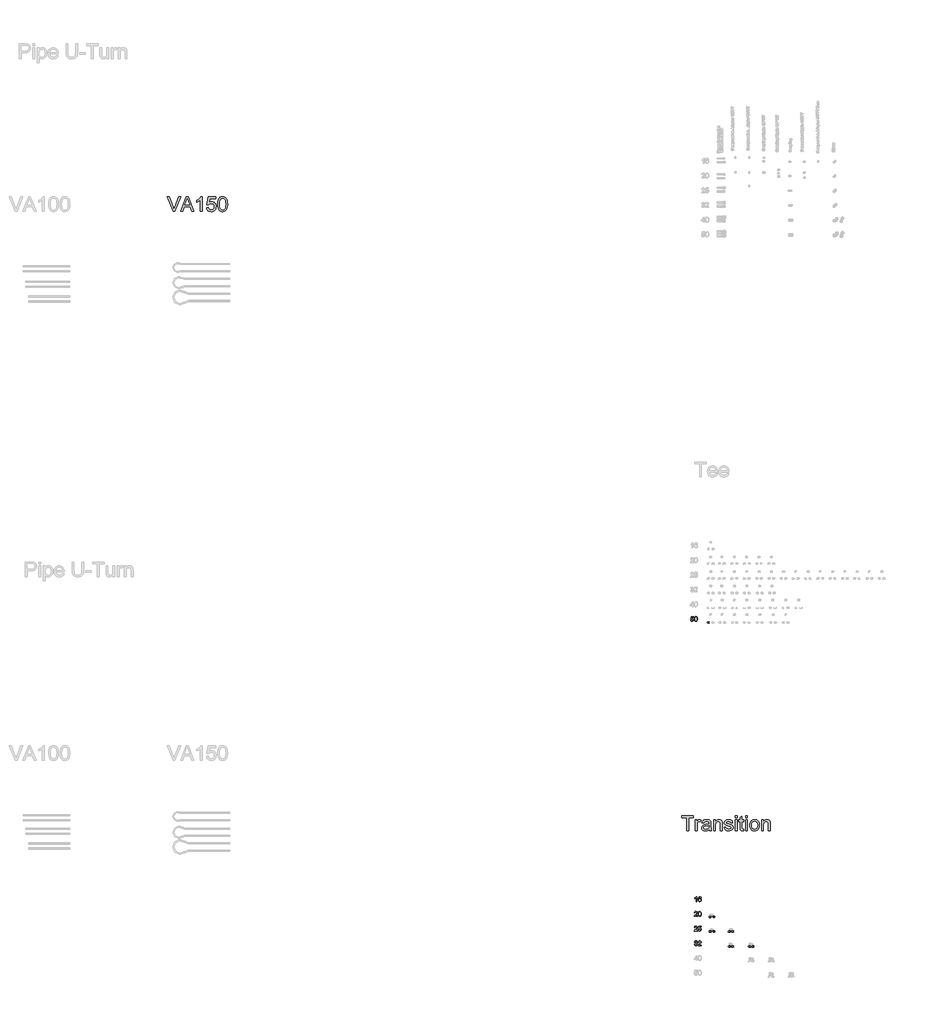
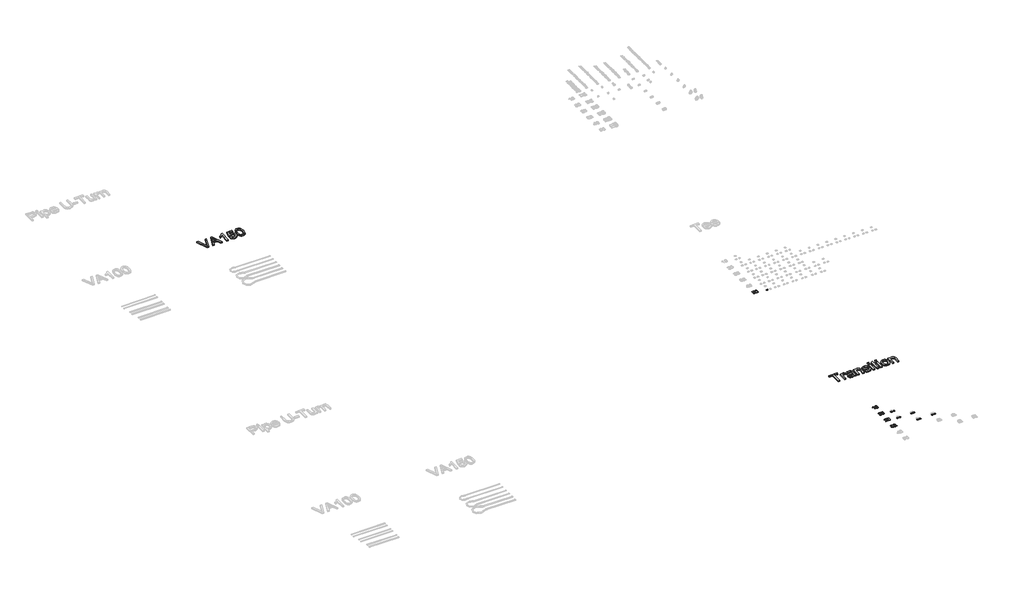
# One storey, part 15 of 26: 18 proxies.
"""IFC4 building model written with IfcOpenShell, lengths in millimetres."""

from ifc_helpers import new_model, si_unit, origin, origin_with_axes, place, context, project, spatial, polyline, outline, extrude, element, save

model = new_model("IFC4")

# Units and contexts
model_context = context("Model", 3, world=origin())
ifc_project = project(units=[si_unit("LENGTHUNIT", "METRE", prefix="MILLI")], contexts=[model_context])

# Site, building, storey
site = spatial("IfcSite", under=ifc_project)
building = spatial("IfcBuilding", under=site)
storey = spatial("IfcBuildingStorey", under=building, Name="Superpipe UFH", Elevation=0.0)

# Proxies
placement = place(None, origin())
element("IfcBuildingElementProxy", 1, Name="100mm Arial", ObjectType="100mm Arial", at=placement, inside=storey, context=model_context, shape_type="SweptSolid", body=[
    extrude(outline(polyline([(25170.9833126, 22852.4161717), (25183.5403514, 22853.9858016), (25189.8679217, 22841.0486181), (25202.9890462, 22836.7198733), (25211.9898924, 22838.2251237), (25218.7343956, 22842.7408752), (25222.9466444, 22849.7459616), (25224.3507274, 22858.7192166), (25219.0900149, 22873.6307001), (25212.4834674, 22877.7325843), (25203.1852499, 22879.0998791), (25192.1610528, 22876.9171126), (25185.1099812, 22871.2517299), (25172.5529425, 22872.8213597), (25183.5403514, 22924.6191446), (25232.1988766, 22924.6191446), (25232.1988766, 22912.0621059), (25193.6938945, 22912.0621059), (25188.3228173, 22884.3973798), (25197.2930066, 22889.8420334), (25206.6923916, 22891.6569179), (25218.4247616, 22889.4067063), (25228.1644374, 22882.6560717), (25234.721934, 22872.3676386), (25236.9077662, 22859.5040315), (25234.9395975, 22846.9469927), (25229.0350915, 22836.2048385), (25217.7288515, 22827.1733355), (25202.9399953, 22824.1628345), (25190.6067514, 22826.0972806), (25180.7812364, 22831.9006191), (25174.0459302, 22840.8983996), (25170.9833126, 22852.4161717)])), origin_with_axes(), (0.0, 0.0, 1.0), 2.0),
    extrude(outline(polyline([(25247.8951751, 22875.151279), (25251.5862578, 22904.0545411), (25262.5491412, 22920.7195955), (25280.8574019, 22926.1887745), (25295.5236307, 22922.9514129), (25305.6526483, 22913.619473), (25311.5387602, 22898.7570404), (25313.8196286, 22875.151279), (25310.1653341, 22846.3706443), (25299.2392389, 22829.6688017), (25291.0078792, 22825.5393263), (25280.8574019, 22824.1628345), (25267.8098538, 22826.5540675), (25257.9015654, 22833.7277664), (25250.3967727, 22850.7177832), (25247.8951751, 22875.151279)]), holes=[polyline([(25260.4522139, 22875.1758045), (25261.9237418, 22855.423607), (25266.3383258, 22843.991674), (25272.9111508, 22838.5378234), (25280.8574019, 22836.7198733), (25288.8036529, 22838.5439548), (25295.3764779, 22844.0161995), (25299.7910619, 22855.4542639), (25301.2625899, 22875.1758045), (25299.8401128, 22894.4834779), (25295.5726817, 22906.0043157), (25289.0121194, 22911.7248807), (25280.7102491, 22913.6317357), (25272.8498371, 22911.9517413), (25266.5345295, 22906.9117579), (25261.9727928, 22894.6735502), (25260.4522139, 22875.1758045)])]), origin_with_axes(), (0.0, 0.0, 1.0), 2.0),
])
element("IfcBuildingElementProxy", 2, Name="100mm Arial", ObjectType="100mm Arial", at=placement, inside=storey, context=model_context, shape_type="SweptSolid", body=[
    extrude(outline(polyline([(25295.6149674, 17106.9604768), (25283.0579286, 17106.9604768), (25283.0579286, 17185.2457654), (25271.1630775, 17176.7722168), (25257.9438511, 17170.4323837), (25257.9438511, 17182.3027095), (25276.3502136, 17194.0504078), (25287.5215635, 17207.416787), (25295.6149674, 17207.416787), (25295.6149674, 17106.9604768)])), origin_with_axes(), (0.0, 0.0, 1.0), 2.0),
    extrude(outline(polyline([(25389.7927582, 17180.7330796), (25377.2357194, 17179.1634498), (25372.4777789, 17189.6358239), (25359.8962147, 17194.8597482), (25348.5654492, 17191.8185904), (25339.9937988, 17180.4019858), (25336.4253434, 17158.0224978), (25347.4985915, 17168.0411508), (25361.2205899, 17171.3153005), (25372.8211355, 17169.0773517), (25382.5577456, 17162.3635053), (25389.1612274, 17152.105729), (25391.362388, 17139.2359906), (25387.2175842, 17121.9087486), (25375.8132423, 17109.6460154), (25359.3566544, 17105.390847), (25345.1104242, 17108.2112756), (25333.7643303, 17116.6725615), (25326.342311, 17131.6085705), (25323.8683046, 17153.8531685), (25326.6151569, 17178.8630128), (25334.8557136, 17195.9633942), (25346.1067712, 17204.5534388), (25360.6810296, 17207.416787), (25371.6990954, 17205.6448221), (25380.5221319, 17200.3289272), (25386.7025494, 17191.8860354), (25389.7927582, 17180.7330796)]), holes=[polyline([(25336.4253434, 17139.4321943), (25339.3316112, 17128.55515), (25347.0571331, 17120.6579498), (25358.3756358, 17117.9478858), (25366.6621777, 17119.3519687), (25373.1767547, 17123.5642176), (25377.3982006, 17130.1860935), (25378.8053492, 17138.8190576), (25377.4165947, 17147.1055996), (25373.2503311, 17153.4239728), (25366.6253895, 17157.4246895), (25357.860601, 17158.7582618), (25342.6670746, 17153.4239728), (25337.9857762, 17147.2588837), (25336.4253434, 17139.4321943)])]), origin_with_axes(), (0.0, 0.0, 1.0), 2.0),
])
element("IfcBuildingElementProxy", 3, Name="100mm Arial", ObjectType="100mm Arial", at=placement, inside=storey, context=model_context, shape_type="SweptSolid", body=[
    extrude(outline(polyline([(25312.8808957, 16819.5175156), (25312.8808957, 16806.9604768), (25246.9564422, 16806.9604768), (25248.3053428, 16815.6179665), (25255.9327629, 16828.9475574), (25271.6535868, 16843.5034217), (25293.334099, 16864.4236445), (25298.7542271, 16878.648415), (25293.6406674, 16890.1631214), (25280.2865509, 16894.8597482), (25266.3683488, 16890.273486), (25261.0831108, 16877.5938199), (25248.526072, 16879.1634498), (25251.5702955, 16891.309687), (25258.1523176, 16900.1817744), (25267.9287816, 16905.6080339), (25280.5563311, 16907.416787), (25293.275851, 16905.4056988), (25303.033921, 16899.372434), (25309.2419296, 16890.3593252), (25311.3112659, 16879.4087044), (25309.0794484, 16867.5015905), (25301.6604949, 16855.1898064), (25283.6710653, 16837.9851918), (25269.2255656, 16825.9063996), (25263.5601829, 16819.5175156), (25312.8808957, 16819.5175156)])), origin_with_axes(), (0.0, 0.0, 1.0), 2.0),
    extrude(outline(polyline([(25325.4379345, 16856.3792915), (25329.1290172, 16885.2825536), (25340.0919006, 16901.947608), (25358.4001612, 16907.416787), (25373.0663901, 16904.1794254), (25383.1954077, 16894.8474855), (25389.0815196, 16879.9850529), (25391.362388, 16856.3792915), (25387.7080935, 16827.5986568), (25376.7819983, 16810.8968142), (25368.5506386, 16806.7673388), (25358.4001612, 16805.390847), (25345.3526131, 16807.78208), (25335.4443247, 16814.9557789), (25327.939532, 16831.9457957), (25325.4379345, 16856.3792915)]), holes=[polyline([(25337.9949732, 16856.403817), (25339.4665012, 16836.6516195), (25343.8810852, 16825.2196865), (25350.4539101, 16819.765836), (25358.4001612, 16817.9478858), (25366.3464123, 16819.7719673), (25372.9192373, 16825.244212), (25377.3338213, 16836.6822764), (25378.8053492, 16856.403817), (25377.3828722, 16875.7114904), (25373.1154411, 16887.2323282), (25366.5548788, 16892.9528932), (25358.2530084, 16894.8597482), (25350.3925965, 16893.1797538), (25344.0772889, 16888.1397704), (25339.5155522, 16875.9015627), (25337.9949732, 16856.403817)])]), origin_with_axes(), (0.0, 0.0, 1.0), 2.0),
])
element("IfcBuildingElementProxy", 4, Name="100mm Arial", ObjectType="100mm Arial", at=placement, inside=storey, context=model_context, shape_type="SweptSolid", body=[
    extrude(outline(polyline([(25312.8808957, 16519.5175156), (25312.8808957, 16506.9604768), (25246.9564422, 16506.9604768), (25248.3053428, 16515.6179665), (25255.9327629, 16528.9475574), (25271.6535868, 16543.5034217), (25293.334099, 16564.4236445), (25298.7542271, 16578.648415), (25293.6406674, 16590.1631214), (25280.2865509, 16594.8597482), (25266.3683488, 16590.273486), (25261.0831108, 16577.5938199), (25248.526072, 16579.1634498), (25251.5702955, 16591.309687), (25258.1523176, 16600.1817744), (25267.9287816, 16605.6080339), (25280.5563311, 16607.416787), (25293.275851, 16605.4056988), (25303.033921, 16599.372434), (25309.2419296, 16590.3593252), (25311.3112659, 16579.4087044), (25309.0794484, 16567.5015905), (25301.6604949, 16555.1898064), (25283.6710653, 16537.9851918), (25269.2255656, 16525.9063996), (25263.5601829, 16519.5175156), (25312.8808957, 16519.5175156)])), origin_with_axes(), (0.0, 0.0, 1.0), 2.0),
    extrude(outline(polyline([(25325.4379345, 16533.6441842), (25337.9949732, 16535.2138141), (25344.3225436, 16522.2766306), (25357.4436681, 16517.9478858), (25366.4445142, 16519.4531363), (25373.1890174, 16523.9688878), (25377.4012663, 16530.9739741), (25378.8053492, 16539.9472291), (25373.5446367, 16554.8587126), (25366.9380892, 16558.9605969), (25357.6398718, 16560.3278916), (25346.6156747, 16558.1451251), (25339.5646031, 16552.4797424), (25327.0075643, 16554.0493722), (25337.9949732, 16605.8471571), (25386.6534985, 16605.8471571), (25386.6534985, 16593.2901184), (25348.1485163, 16593.2901184), (25342.7774392, 16565.6253923), (25351.7476285, 16571.0700459), (25361.1470135, 16572.8849304), (25372.8793834, 16570.6347188), (25382.6190593, 16563.8840842), (25389.1765558, 16553.5956511), (25391.362388, 16540.732044), (25389.3942193, 16528.1750052), (25383.4897133, 16517.432851), (25372.1834733, 16508.401348), (25357.3946171, 16505.390847), (25345.0613732, 16507.3252932), (25335.2358583, 16513.1286316), (25328.5005521, 16522.1264121), (25325.4379345, 16533.6441842)])), origin_with_axes(), (0.0, 0.0, 1.0), 2.0),
])
element("IfcBuildingElementProxy", 5, Name="100mm Arial", ObjectType="100mm Arial", at=placement, inside=storey, context=model_context, shape_type="SweptSolid", body=[
    extrude(outline(polyline([(25248.526072, 16233.6441842), (25261.0831108, 16235.2138141), (25268.011555, 16221.9945877), (25280.973264, 16217.9478858), (25289.5817027, 16219.339706), (25296.2281041, 16223.5151666), (25301.8934868, 16237.2984787), (25296.277155, 16250.2847131), (25282.0033336, 16255.4227983), (25273.1986912, 16254.0493722), (25274.5966427, 16266.606411), (25276.607731, 16266.4592582), (25290.8570269, 16270.0645018), (25295.6027047, 16274.6385012), (25297.1845972, 16281.1500125), (25292.598335, 16290.9724618), (25280.7770603, 16294.8597482), (25268.8086327, 16290.9356736), (25262.6527406, 16279.1634498), (25250.0957019, 16280.7330796), (25253.7929159, 16292.0086628), (25260.3718723, 16300.4270291), (25269.3727184, 16305.6693475), (25280.3356019, 16307.416787), (25295.4800773, 16303.970959), (25306.0750788, 16294.5531799), (25309.741636, 16281.8857765), (25306.2590198, 16270.3097564), (25295.9583239, 16261.9956233), (25309.6435341, 16253.4117101), (25314.4505256, 16237.0777495), (25312.0470299, 16224.8395418), (25304.8365427, 16214.6124223), (25293.9533671, 16207.6962408), (25280.5318056, 16205.390847), (25268.3916998, 16207.3590157), (25258.5079368, 16213.2635217), (25251.6346749, 16222.2950247), (25248.526072, 16233.6441842)])), origin_with_axes(), (0.0, 0.0, 1.0), 2.0),
    extrude(outline(polyline([(25389.7927582, 16219.5175156), (25389.7927582, 16206.9604768), (25323.8683046, 16206.9604768), (25325.2172053, 16215.6179665), (25332.8446253, 16228.9475574), (25348.5654492, 16243.5034217), (25370.2459615, 16264.4236445), (25375.6660896, 16278.648415), (25370.5525298, 16290.1631214), (25357.1984134, 16294.8597482), (25343.2802112, 16290.273486), (25337.9949732, 16277.5938199), (25325.4379345, 16279.1634498), (25328.482158, 16291.309687), (25335.06418, 16300.1817744), (25344.840644, 16305.6080339), (25357.4681935, 16307.416787), (25370.1877135, 16305.4056988), (25379.9457834, 16299.372434), (25386.1537921, 16290.3593252), (25388.2231283, 16279.4087044), (25385.9913109, 16267.5015905), (25378.5723573, 16255.1898064), (25360.5829277, 16237.9851918), (25346.1374281, 16225.9063996), (25340.4720453, 16219.5175156), (25389.7927582, 16219.5175156)])), origin_with_axes(), (0.0, 0.0, 1.0), 2.0),
])
element("IfcBuildingElementProxy", 6, Name="300mm Arial", ObjectType="300mm Arial", at=placement, inside=storey, context=model_context, shape_type="SweptSolid", body=[
    extrude(outline(polyline([(14611.0010231, 31190.4014488), (14491.0714926, 31491.7703793), (14531.3913593, 31491.7703793), (14611.6632106, 31274.6464257), (14627.9235948, 31225.7181204), (14643.9632498, 31274.6464257), (14724.4558304, 31491.7703793), (14764.775697, 31491.7703793), (14649.9229381, 31190.4014488), (14611.0010231, 31190.4014488)])), origin_with_axes(), (0.0, 0.0, 1.0), 30.0),
    extrude(outline(polyline([(14764.7021206, 31190.4014488), (14884.9995331, 31491.7703793), (14917.078843, 31491.7703793), (15037.3762555, 31190.4014488), (14997.5714236, 31190.4014488), (14963.0640924, 31284.5792396), (14838.9407073, 31284.5792396), (14804.5069525, 31190.4014488), (14764.7021206, 31190.4014488)]), holes=[polyline([(14852.7730703, 31322.2503559), (14949.3053058, 31322.2503559), (14922.1556146, 31396.3417897), (14901.0391881, 31454.099263), (14882.2772063, 31402.8165128), (14852.7730703, 31322.2503559)])]), origin_with_axes(), (0.0, 0.0, 1.0), 30.0),
    extrude(outline(polyline([(15204.7625633, 31190.4014488), (15167.091447, 31190.4014488), (15167.091447, 31425.2573145), (15131.4068934, 31399.8366687), (15091.7492144, 31380.8171695), (15091.7492144, 31416.4281467), (15121.3361238, 31432.522984), (15146.9683018, 31451.6712418), (15167.1742204, 31472.0335102), (15180.4823516, 31491.7703793), (15204.7625633, 31491.7703793), (15204.7625633, 31190.4014488)])), origin_with_axes(), (0.0, 0.0, 1.0), 30.0),
    extrude(outline(polyline([(15294.2314645, 31270.452571), (15331.9025808, 31275.1614605), (15338.8187623, 31252.5459149), (15350.8852918, 31236.34991), (15368.0469868, 31226.6102342), (15390.2486652, 31223.3636756), (15417.2512037, 31227.8794271), (15437.4847134, 31241.4266816), (15450.12146, 31262.4419405), (15454.3337088, 31289.3617055), (15450.3881744, 31314.708775), (15438.5515712, 31334.0961561), (15418.7319287, 31346.4018089), (15390.8372764, 31350.5036931), (15372.5627383, 31348.8666182), (15357.7646851, 31343.9553936), (15336.6114703, 31326.9592454), (15298.940354, 31331.668135), (15331.9025808, 31487.0614897), (15477.8781565, 31487.0614897), (15477.8781565, 31449.3903734), (15362.36321, 31449.3903734), (15346.2499786, 31366.3961953), (15373.1605466, 31382.7301559), (15401.3587015, 31388.1748094), (15419.7045167, 31386.4871508), (15436.5558114, 31381.4241748), (15451.9125854, 31372.9858816), (15465.7748388, 31361.172271), (15477.2504578, 31346.7053115), (15485.4473285, 31330.3069716), (15490.365451, 31311.9772512), (15492.0048251, 31291.7161503), (15486.1003191, 31254.045034), (15478.7196866, 31237.2512209), (15468.386801, 31221.8185712), (15452.7334221, 31206.013441), (15434.4680811, 31194.7240623), (15413.5907778, 31187.950435), (15390.1015124, 31185.6925593), (15353.1017808, 31191.4958978), (15337.42311, 31198.7500709), (15323.6252359, 31208.9059132), (15312.1450184, 31221.457587), (15303.4193173, 31235.8992546), (15294.2314645, 31270.452571)])), origin_with_axes(), (0.0, 0.0, 1.0), 30.0),
    extrude(outline(polyline([(15524.9670519, 31338.6578929), (15527.7353639, 31386.8964195), (15536.0402999, 31425.3676791), (15549.7990865, 31454.660283), (15568.9289503, 31475.3628423), (15593.5678469, 31487.668495), (15623.8537322, 31491.7703793), (15647.0670861, 31489.3423581), (15667.8524188, 31482.0582946), (15685.2348431, 31470.2032973), (15698.2394716, 31454.0624748), (15708.0619209, 31433.7737827), (15715.8978074, 31409.475177), (15721.0297612, 31378.6190746), (15722.7404125, 31338.6578929), (15719.9996916, 31290.6952778), (15711.777529, 31252.3159886), (15698.1015159, 31222.9957936), (15678.9992433, 31202.2104609), (15654.3051643, 31189.8220347), (15623.8537322, 31185.6925593), (15603.1051876, 31187.485984), (15584.7110879, 31192.8662582), (15568.6714329, 31201.8333818), (15554.9862227, 31214.3873549), (15541.8528355, 31237.0810755), (15532.4718446, 31265.3574053), (15526.84325, 31299.2163445), (15524.9670519, 31338.6578929)]), holes=[polyline([(15562.6381682, 31338.7314693), (15567.0527521, 31279.4748769), (15572.570982, 31259.2068782), (15580.2965039, 31245.1790779), (15600.0149789, 31228.8175262), (15623.8537322, 31223.3636756), (15647.6924855, 31228.8359203), (15667.4109604, 31245.2526543), (15675.1364823, 31259.3034473), (15680.6547122, 31279.5668474), (15685.0692962, 31338.7314693), (15680.801865, 31396.6544894), (15675.4675761, 31416.8558095), (15667.9995716, 31431.2170029), (15648.3178849, 31448.3786979), (15623.4122738, 31454.099263), (15599.8310379, 31449.0592796), (15580.8851151, 31433.9393296), (15572.9020758, 31418.3043448), (15567.1999049, 31397.2247065), (15562.6381682, 31338.7314693)])]), origin_with_axes(), (0.0, 0.0, 1.0), 30.0),
])
element("IfcBuildingElementProxy", 7, Name="30mm Arial", ObjectType="30mm Arial", at=placement, inside=storey, context=model_context, shape_type="SweptSolid", body=[
    extrude(outline(polyline([(25513.9421282, 22796.5350756), (25517.7092398, 22797.0059646), (25519.6075109, 22793.1248095), (25523.5438483, 22791.8261861), (25528.2674531, 22793.6324867), (25529.9523526, 22798.4259891), (25528.3741389, 22802.8994341), (25523.6027094, 22804.5401878), (25520.2954502, 22803.8853579), (25518.1801288, 22802.1857431), (25514.4130171, 22802.656632), (25517.7092398, 22818.1959675), (25532.3067974, 22818.1959675), (25532.3067974, 22814.4288559), (25520.7553027, 22814.4288559), (25519.1439796, 22806.1294381), (25524.6548519, 22808.3072995), (25531.0964656, 22805.6070456), (25533.7194642, 22798.6614336), (25531.3576618, 22791.6716757), (25523.529133, 22788.0590745), (25516.8815053, 22790.3804098), (25513.9421282, 22796.5350756)])), origin_with_axes(), (0.0, 0.0, 1.0), 2.0),
    extrude(outline(polyline([(25537.0156869, 22803.3556078), (25538.1230117, 22812.0265864), (25541.4118768, 22817.0261028), (25546.904355, 22818.6668565), (25551.3042236, 22817.695648), (25554.3429289, 22814.896066), (25556.1087625, 22810.4373362), (25556.793023, 22803.3556078), (25555.6967346, 22794.7214174), (25552.4189061, 22789.7108646), (25546.904355, 22788.0590745), (25540.017604, 22790.928554), (25537.0156869, 22803.3556078)]), holes=[polyline([(25540.7827986, 22803.3629655), (25542.5486321, 22794.0077263), (25546.904355, 22791.8261861), (25551.2600778, 22794.015084), (25553.0259114, 22803.3629655), (25551.3189389, 22812.6115188), (25546.8602091, 22814.8997448), (25542.6074932, 22812.8837515), (25540.7827986, 22803.3629655)])]), origin_with_axes(), (0.0, 0.0, 1.0), 2.0),
])
element("IfcBuildingElementProxy", 8, Name="30mm Arial", ObjectType="30mm Arial", at=placement, inside=storey, context=model_context, shape_type="SweptSolid", body=[
    extrude(outline(polyline([(25633.7777554, 16782.3220762), (25630.0106438, 16782.3220762), (25630.0106438, 16805.8076628), (25626.4421884, 16803.2655982), (25622.4764205, 16801.3636483), (25622.4764205, 16804.924746), (25627.9983293, 16808.4490555), (25631.3497342, 16812.4589693), (25633.7777554, 16812.4589693), (25633.7777554, 16782.3220762)])), origin_with_axes(), (0.0, 0.0, 1.0), 2.0),
    extrude(outline(polyline([(25662.0310926, 16804.4538571), (25658.263981, 16803.9829681), (25656.8365989, 16807.1246804), (25653.0621296, 16808.6918577), (25649.6629, 16807.7795103), (25647.0914048, 16804.3545289), (25646.0208682, 16797.6406825), (25649.3428426, 16800.6462784), (25653.4594421, 16801.6285233), (25659.8605889, 16798.9429848), (25662.5019816, 16792.0047304), (25661.2585404, 16786.8065578), (25657.8372379, 16783.1277378), (25652.9002615, 16781.8511873), (25645.2225643, 16785.2357016), (25642.2537566, 16796.3898837), (25645.5499792, 16809.0229514), (25653.2975741, 16812.4589693), (25659.2499047, 16810.3326114), (25662.0310926, 16804.4538571)]), holes=[polyline([(25646.0208682, 16792.0635915), (25646.8927485, 16788.8004782), (25649.2104051, 16786.4313181), (25652.6059559, 16785.6182989), (25657.0462916, 16787.3031985), (25658.73487, 16791.8796505), (25657.0683645, 16796.261125), (25652.4514455, 16797.8614117), (25647.8933876, 16796.261125), (25646.0208682, 16792.0635915)])]), origin_with_axes(), (0.0, 0.0, 1.0), 2.0),
])
element("IfcBuildingElementProxy", 9, Name="30mm Arial", ObjectType="30mm Arial", at=placement, inside=storey, context=model_context, shape_type="SweptSolid", body=[
    extrude(outline(polyline([(25568.9575339, 16786.0891879), (25568.9575339, 16782.3220762), (25549.1801978, 16782.3220762), (25549.584868, 16784.9193231), (25551.873094, 16788.9182004), (25556.5893412, 16793.2849597), (25563.0934949, 16799.5610265), (25564.7195333, 16803.8284577), (25563.1854654, 16807.2828696), (25559.1792305, 16808.6918577), (25555.0037698, 16807.315979), (25553.4181984, 16803.5120792), (25549.6510868, 16803.9829681), (25552.5389604, 16810.2884655), (25559.2601645, 16812.4589693), (25566.0034415, 16810.0456634), (25568.4866449, 16804.0565445), (25567.8170997, 16800.4844103), (25565.5914136, 16796.7908751), (25560.1945848, 16791.6294907), (25555.8609349, 16788.0058531), (25554.16132, 16786.0891879), (25568.9575339, 16786.0891879)])), origin_with_axes(), (0.0, 0.0, 1.0), 2.0),
    extrude(outline(polyline([(25572.7246455, 16797.1477206), (25573.8319703, 16805.8186993), (25577.1208354, 16810.8182156), (25582.6133136, 16812.4589693), (25587.0131822, 16811.4877608), (25590.0518875, 16808.6881788), (25591.8177211, 16804.2294491), (25592.5019816, 16797.1477206), (25591.4056932, 16788.5135302), (25588.1278647, 16783.5029774), (25582.6133136, 16781.8511873), (25575.7265626, 16784.7206668), (25572.7246455, 16797.1477206)]), holes=[polyline([(25576.4917572, 16797.1550783), (25578.2575907, 16787.7998391), (25582.6133136, 16785.6182989), (25586.9690364, 16787.8071968), (25588.73487, 16797.1550783), (25587.0278975, 16806.4036316), (25582.5691677, 16808.6918577), (25578.3164519, 16806.6758643), (25576.4917572, 16797.1550783)])]), origin_with_axes(), (0.0, 0.0, 1.0), 2.0),
])
element("IfcBuildingElementProxy", 10, Name="30mm Arial", ObjectType="30mm Arial", at=placement, inside=storey, context=model_context, shape_type="SweptSolid", body=[
    extrude(outline(polyline([(25633.7777554, 16482.3220762), (25630.0106438, 16482.3220762), (25630.0106438, 16505.8076628), (25626.4421884, 16503.2655982), (25622.4764205, 16501.3636483), (25622.4764205, 16504.924746), (25627.9983293, 16508.4490555), (25631.3497342, 16512.4589693), (25633.7777554, 16512.4589693), (25633.7777554, 16482.3220762)])), origin_with_axes(), (0.0, 0.0, 1.0), 2.0),
    extrude(outline(polyline([(25662.0310926, 16504.4538571), (25658.263981, 16503.9829681), (25656.8365989, 16507.1246804), (25653.0621296, 16508.6918577), (25649.6629, 16507.7795103), (25647.0914048, 16504.3545289), (25646.0208682, 16497.6406825), (25649.3428426, 16500.6462784), (25653.4594421, 16501.6285233), (25659.8605889, 16498.9429848), (25662.5019816, 16492.0047304), (25661.2585404, 16486.8065578), (25657.8372379, 16483.1277378), (25652.9002615, 16481.8511873), (25645.2225643, 16485.2357016), (25642.2537566, 16496.3898837), (25645.5499792, 16509.0229514), (25653.2975741, 16512.4589693), (25659.2499047, 16510.3326114), (25662.0310926, 16504.4538571)]), holes=[polyline([(25646.0208682, 16492.0635915), (25646.8927485, 16488.8004782), (25649.2104051, 16486.4313181), (25652.6059559, 16485.6182989), (25657.0462916, 16487.3031985), (25658.73487, 16491.8796505), (25657.0683645, 16496.261125), (25652.4514455, 16497.8614117), (25647.8933876, 16496.261125), (25646.0208682, 16492.0635915)])]), origin_with_axes(), (0.0, 0.0, 1.0), 2.0),
])
element("IfcBuildingElementProxy", 11, Name="30mm Arial", ObjectType="30mm Arial", at=placement, inside=storey, context=model_context, shape_type="SweptSolid", body=[
    extrude(outline(polyline([(25568.9575339, 16486.0891879), (25568.9575339, 16482.3220762), (25549.1801978, 16482.3220762), (25549.584868, 16484.9193231), (25551.873094, 16488.9182004), (25556.5893412, 16493.2849597), (25563.0934949, 16499.5610265), (25564.7195333, 16503.8284577), (25563.1854654, 16507.2828696), (25559.1792305, 16508.6918577), (25555.0037698, 16507.315979), (25553.4181984, 16503.5120792), (25549.6510868, 16503.9829681), (25552.5389604, 16510.2884655), (25559.2601645, 16512.4589693), (25566.0034415, 16510.0456634), (25568.4866449, 16504.0565445), (25567.8170997, 16500.4844103), (25565.5914136, 16496.7908751), (25560.1945848, 16491.6294907), (25555.8609349, 16488.0058531), (25554.16132, 16486.0891879), (25568.9575339, 16486.0891879)])), origin_with_axes(), (0.0, 0.0, 1.0), 2.0),
    extrude(outline(polyline([(25572.7246455, 16490.3271885), (25576.4917572, 16490.7980774), (25578.3900282, 16486.9169224), (25582.3263656, 16485.6182989), (25587.0499704, 16487.4245995), (25588.73487, 16492.2181019), (25587.1566562, 16496.691547), (25582.3852267, 16498.3323007), (25579.0779676, 16497.6774707), (25576.9626461, 16495.9778559), (25573.1955345, 16496.4487449), (25576.4917572, 16511.9880803), (25591.0893147, 16511.9880803), (25591.0893147, 16508.2209687), (25579.5378201, 16508.2209687), (25577.9264969, 16499.9215509), (25583.4373692, 16502.0994123), (25589.878983, 16499.3991585), (25592.5019816, 16492.4535464), (25590.1401792, 16485.4637885), (25582.3116503, 16481.8511873), (25575.6640227, 16484.1725227), (25572.7246455, 16490.3271885)])), origin_with_axes(), (0.0, 0.0, 1.0), 2.0),
])
element("IfcBuildingElementProxy", 12, Name="30mm Arial", ObjectType="30mm Arial", at=placement, inside=storey, context=model_context, shape_type="SweptSolid", body=[
    extrude(outline(polyline([(26031.3960574, 16486.0891879), (26031.3960574, 16482.3220762), (26011.6187214, 16482.3220762), (26012.0233916, 16484.9193231), (26014.3116176, 16488.9182004), (26019.0278648, 16493.2849597), (26025.5320184, 16499.5610265), (26027.1580569, 16503.8284577), (26025.6239889, 16507.2828696), (26021.617754, 16508.6918577), (26017.4422934, 16507.315979), (26015.856722, 16503.5120792), (26012.0896103, 16503.9829681), (26014.977484, 16510.2884655), (26021.6986881, 16512.4589693), (26028.441965, 16510.0456634), (26030.9251685, 16504.0565445), (26030.2556233, 16500.4844103), (26028.0299372, 16496.7908751), (26022.6331083, 16491.6294907), (26018.2994584, 16488.0058531), (26016.5998436, 16486.0891879), (26031.3960574, 16486.0891879)])), origin_with_axes(), (0.0, 0.0, 1.0), 2.0),
    extrude(outline(polyline([(26035.1631691, 16497.1477206), (26036.2704939, 16505.8186993), (26039.5593589, 16510.8182156), (26045.0518371, 16512.4589693), (26049.4517058, 16511.4877608), (26052.4904111, 16508.6881788), (26054.2562446, 16504.2294491), (26054.9405051, 16497.1477206), (26053.8442168, 16488.5135302), (26050.5663882, 16483.5029774), (26045.0518371, 16481.8511873), (26038.1650862, 16484.7206668), (26035.1631691, 16497.1477206)]), holes=[polyline([(26038.9302807, 16497.1550783), (26040.6961143, 16487.7998391), (26045.0518371, 16485.6182989), (26049.4075599, 16487.8071968), (26051.1733935, 16497.1550783), (26049.466421, 16506.4036316), (26045.0076913, 16508.6918577), (26040.7549754, 16506.6758643), (26038.9302807, 16497.1550783)])]), origin_with_axes(), (0.0, 0.0, 1.0), 2.0),
])
element("IfcBuildingElementProxy", 13, Name="30mm Arial", ObjectType="30mm Arial", at=placement, inside=storey, context=model_context, shape_type="SweptSolid", body=[
    extrude(outline(polyline([(25961.3960574, 16486.0891879), (25961.3960574, 16482.3220762), (25941.6187214, 16482.3220762), (25942.0233916, 16484.9193231), (25944.3116176, 16488.9182004), (25949.0278648, 16493.2849597), (25955.5320184, 16499.5610265), (25957.1580569, 16503.8284577), (25955.6239889, 16507.2828696), (25951.617754, 16508.6918577), (25947.4422934, 16507.315979), (25945.856722, 16503.5120792), (25942.0896103, 16503.9829681), (25944.977484, 16510.2884655), (25951.6986881, 16512.4589693), (25958.441965, 16510.0456634), (25960.9251685, 16504.0565445), (25960.2556233, 16500.4844103), (25958.0299372, 16496.7908751), (25952.6331083, 16491.6294907), (25948.2994584, 16488.0058531), (25946.5998436, 16486.0891879), (25961.3960574, 16486.0891879)])), origin_with_axes(), (0.0, 0.0, 1.0), 2.0),
    extrude(outline(polyline([(25965.1631691, 16490.3271885), (25968.9302807, 16490.7980774), (25970.8285518, 16486.9169224), (25974.7648892, 16485.6182989), (25979.488494, 16487.4245995), (25981.1733935, 16492.2181019), (25979.5951797, 16496.691547), (25974.8237503, 16498.3323007), (25971.5164911, 16497.6774707), (25969.4011697, 16495.9778559), (25965.634058, 16496.4487449), (25968.9302807, 16511.9880803), (25983.5278383, 16511.9880803), (25983.5278383, 16508.2209687), (25971.9763436, 16508.2209687), (25970.3650205, 16499.9215509), (25975.8758928, 16502.0994123), (25982.3175065, 16499.3991585), (25984.9405051, 16492.4535464), (25982.5787027, 16485.4637885), (25974.7501739, 16481.8511873), (25968.1025462, 16484.1725227), (25965.1631691, 16490.3271885)])), origin_with_axes(), (0.0, 0.0, 1.0), 2.0),
])
element("IfcBuildingElementProxy", 14, Name="30mm Arial", ObjectType="30mm Arial", at=placement, inside=storey, context=model_context, shape_type="SweptSolid", body=[
    extrude(outline(polyline([(26031.3960574, 16181.0891879), (26031.3960574, 16177.3220762), (26011.6187214, 16177.3220762), (26012.0233916, 16179.9193231), (26014.3116176, 16183.9182004), (26019.0278648, 16188.2849597), (26025.5320184, 16194.5610265), (26027.1580569, 16198.8284577), (26025.6239889, 16202.2828696), (26021.617754, 16203.6918577), (26017.4422934, 16202.315979), (26015.856722, 16198.5120792), (26012.0896103, 16198.9829681), (26014.977484, 16205.2884655), (26021.6986881, 16207.4589693), (26028.441965, 16205.0456634), (26030.9251685, 16199.0565445), (26030.2556233, 16195.4844103), (26028.0299372, 16191.7908751), (26022.6331083, 16186.6294907), (26018.2994584, 16183.0058531), (26016.5998436, 16181.0891879), (26031.3960574, 16181.0891879)])), origin_with_axes(), (0.0, 0.0, 1.0), 2.0),
    extrude(outline(polyline([(26035.1631691, 16192.1477206), (26036.2704939, 16200.8186993), (26039.5593589, 16205.8182156), (26045.0518371, 16207.4589693), (26049.4517058, 16206.4877608), (26052.4904111, 16203.6881788), (26054.2562446, 16199.2294491), (26054.9405051, 16192.1477206), (26053.8442168, 16183.5135302), (26050.5663882, 16178.5029774), (26045.0518371, 16176.8511873), (26038.1650862, 16179.7206668), (26035.1631691, 16192.1477206)]), holes=[polyline([(26038.9302807, 16192.1550783), (26040.6961143, 16182.7998391), (26045.0518371, 16180.6182989), (26049.4075599, 16182.8071968), (26051.1733935, 16192.1550783), (26049.466421, 16201.4036316), (26045.0076913, 16203.6918577), (26040.7549754, 16201.6758643), (26038.9302807, 16192.1550783)])]), origin_with_axes(), (0.0, 0.0, 1.0), 2.0),
])
element("IfcBuildingElementProxy", 15, Name="30mm Arial", ObjectType="30mm Arial", at=placement, inside=storey, context=model_context, shape_type="SweptSolid", body=[
    extrude(outline(polyline([(25942.0896103, 16185.3271885), (25945.856722, 16185.7980774), (25947.9352552, 16181.8323095), (25951.8237679, 16180.6182989), (25956.40022, 16182.2884832), (25958.0998348, 16186.4234768), (25956.4149352, 16190.3193471), (25952.1327888, 16191.8607727), (25949.4913961, 16191.4487449), (25949.9107816, 16195.2158565), (25954.7888968, 16196.2532837), (25956.6871679, 16199.5789369), (25955.3112892, 16202.5256717), (25951.7649068, 16203.6918577), (25948.1743785, 16202.5146353), (25946.3276109, 16198.9829681), (25942.5604993, 16199.4538571), (25945.6433504, 16205.3620419), (25951.6324693, 16207.4589693), (25956.1758119, 16206.4252209), (25959.3543124, 16203.5998872), (25960.4542795, 16199.7996661), (25959.4094947, 16196.3268601), (25956.3192859, 16193.8326202), (25960.424849, 16191.2574462), (25961.8669464, 16186.357258), (25958.9827516, 16179.6176599), (25951.6913304, 16176.8511873), (25945.0841698, 16179.2129897), (25942.0896103, 16185.3271885)])), origin_with_axes(), (0.0, 0.0, 1.0), 2.0),
    extrude(outline(polyline([(25984.4696162, 16181.0891879), (25984.4696162, 16177.3220762), (25964.6922801, 16177.3220762), (25965.0969503, 16179.9193231), (25967.3851763, 16183.9182004), (25972.1014235, 16188.2849597), (25978.6055772, 16194.5610265), (25980.2316156, 16198.8284577), (25978.6975477, 16202.2828696), (25974.6913128, 16203.6918577), (25970.5158521, 16202.315979), (25968.9302807, 16198.5120792), (25965.1631691, 16198.9829681), (25968.0510427, 16205.2884655), (25974.7722468, 16207.4589693), (25981.5155238, 16205.0456634), (25983.9987272, 16199.0565445), (25983.329182, 16195.4844103), (25981.1034959, 16191.7908751), (25975.7066671, 16186.6294907), (25971.3730172, 16183.0058531), (25969.6734023, 16181.0891879), (25984.4696162, 16181.0891879)])), origin_with_axes(), (0.0, 0.0, 1.0), 2.0),
])
element("IfcBuildingElementProxy", 16, Name="30mm Arial", ObjectType="30mm Arial", at=placement, inside=storey, context=model_context, shape_type="SweptSolid", body=[
    extrude(outline(polyline([(26441.3960574, 16181.0891879), (26441.3960574, 16177.3220762), (26421.6187214, 16177.3220762), (26422.0233916, 16179.9193231), (26424.3116176, 16183.9182004), (26429.0278648, 16188.2849597), (26435.5320184, 16194.5610265), (26437.1580569, 16198.8284577), (26435.6239889, 16202.2828696), (26431.617754, 16203.6918577), (26427.4422934, 16202.315979), (26425.856722, 16198.5120792), (26422.0896103, 16198.9829681), (26424.977484, 16205.2884655), (26431.6986881, 16207.4589693), (26438.441965, 16205.0456634), (26440.9251685, 16199.0565445), (26440.2556233, 16195.4844103), (26438.0299372, 16191.7908751), (26432.6331083, 16186.6294907), (26428.2994584, 16183.0058531), (26426.5998436, 16181.0891879), (26441.3960574, 16181.0891879)])), origin_with_axes(), (0.0, 0.0, 1.0), 2.0),
    extrude(outline(polyline([(26445.1631691, 16185.3271885), (26448.9302807, 16185.7980774), (26450.8285518, 16181.9169224), (26454.7648892, 16180.6182989), (26459.488494, 16182.4245995), (26461.1733935, 16187.2181019), (26459.5951797, 16191.691547), (26454.8237503, 16193.3323007), (26451.5164911, 16192.6774707), (26449.4011697, 16190.9778559), (26445.634058, 16191.4487449), (26448.9302807, 16206.9880803), (26463.5278383, 16206.9880803), (26463.5278383, 16203.2209687), (26451.9763436, 16203.2209687), (26450.3650205, 16194.9215509), (26455.8758928, 16197.0994123), (26462.3175065, 16194.3991585), (26464.9405051, 16187.4535464), (26462.5787027, 16180.4637885), (26454.7501739, 16176.8511873), (26448.1025462, 16179.1725227), (26445.1631691, 16185.3271885)])), origin_with_axes(), (0.0, 0.0, 1.0), 2.0),
])
element("IfcBuildingElementProxy", 17, Name="30mm Arial", ObjectType="30mm Arial", at=placement, inside=storey, context=model_context, shape_type="SweptSolid", body=[
    extrude(outline(polyline([(26352.0896103, 16185.3271885), (26355.856722, 16185.7980774), (26357.9352552, 16181.8323095), (26361.8237679, 16180.6182989), (26366.40022, 16182.2884832), (26368.0998348, 16186.4234768), (26366.4149352, 16190.3193471), (26362.1327888, 16191.8607727), (26359.4913961, 16191.4487449), (26359.9107816, 16195.2158565), (26364.7888968, 16196.2532837), (26366.6871679, 16199.5789369), (26365.3112892, 16202.5256717), (26361.7649068, 16203.6918577), (26358.1743785, 16202.5146353), (26356.3276109, 16198.9829681), (26352.5604993, 16199.4538571), (26355.6433504, 16205.3620419), (26361.6324693, 16207.4589693), (26366.1758119, 16206.4252209), (26369.3543124, 16203.5998872), (26370.4542795, 16199.7996661), (26369.4094947, 16196.3268601), (26366.3192859, 16193.8326202), (26370.424849, 16191.2574462), (26371.8669464, 16186.357258), (26368.9827516, 16179.6176599), (26361.6913304, 16176.8511873), (26355.0841698, 16179.2129897), (26352.0896103, 16185.3271885)])), origin_with_axes(), (0.0, 0.0, 1.0), 2.0),
    extrude(outline(polyline([(26394.4696162, 16181.0891879), (26394.4696162, 16177.3220762), (26374.6922801, 16177.3220762), (26375.0969503, 16179.9193231), (26377.3851763, 16183.9182004), (26382.1014235, 16188.2849597), (26388.6055772, 16194.5610265), (26390.2316156, 16198.8284577), (26388.6975477, 16202.2828696), (26384.6913128, 16203.6918577), (26380.5158521, 16202.315979), (26378.9302807, 16198.5120792), (26375.1631691, 16198.9829681), (26378.0510427, 16205.2884655), (26384.7722468, 16207.4589693), (26391.5155238, 16205.0456634), (26393.9987272, 16199.0565445), (26393.329182, 16195.4844103), (26391.1034959, 16191.7908751), (26385.7066671, 16186.6294907), (26381.3730172, 16183.0058531), (26379.6734023, 16181.0891879), (26394.4696162, 16181.0891879)])), origin_with_axes(), (0.0, 0.0, 1.0), 2.0),
])
element("IfcBuildingElementProxy", 18, Name="600mm Arial", ObjectType="600mm Arial", at=placement, inside=storey, context=model_context, shape_type="SweptSolid", body=[
    extrude(outline(polyline([(25093.1673913, 18554.5323297), (25093.1673913, 18818.2301438), (24994.280711, 18818.2301438), (24994.280711, 18855.9012601), (25229.725188, 18855.9012601), (25229.725188, 18818.2301438), (25130.8385077, 18818.2301438), (25130.8385077, 18554.5323297), (25093.1673913, 18554.5323297)])), origin_with_axes(), (0.0, 0.0, 1.0), 30.0),
    extrude(outline(polyline([(25267.3963043, 18554.5323297), (25267.3963043, 18775.850138), (25300.358531, 18775.850138), (25300.358531, 18743.1086404), (25312.5354251, 18762.0913514), (25323.7558259, 18773.274964), (25335.013015, 18778.7380116), (25347.3002736, 18780.5590275), (25366.0622554, 18777.6527598), (25385.1185427, 18768.9339565), (25372.5369785, 18735.1623893), (25359.2932267, 18740.9565307), (25346.0494748, 18742.8879112), (25334.8014828, 18741.0301071), (25324.7491073, 18735.4566949), (25316.6281123, 18726.5907388), (25311.1742617, 18714.8553032), (25306.5941308, 18693.8124531), (25305.0674206, 18670.8566166), (25305.0674206, 18554.5323297), (25267.3963043, 18554.5323297)])), origin_with_axes(), (0.0, 0.0, 1.0), 30.0),
    extrude(outline(polyline([(25549.9296766, 18582.7856669), (25531.9310499, 18567.3530172), (25513.3989944, 18557.2546564), (25493.9104457, 18551.6812442), (25473.0423396, 18549.8234401), (25441.5608378, 18554.2932064), (25418.3382869, 18567.7025051), (25404.0184802, 18588.0647735), (25399.2452113, 18613.3934489), (25401.0478331, 18629.0100396), (25406.4556984, 18643.1918905), (25414.7974227, 18655.3319964), (25425.4016212, 18664.8233518), (25451.7787602, 18677.1841869), (25484.373105, 18682.8495696), (25522.8903499, 18688.8092579), (25549.7089474, 18695.7990158), (25549.9296766, 18704.1867253), (25547.3361085, 18720.9989325), (25539.5554043, 18731.9986042), (25522.1545859, 18740.1655844), (25497.9111624, 18742.8879112), (25475.4703607, 18741.0760924), (25459.7985877, 18735.6406359), (25449.1116158, 18725.5882604), (25441.6252172, 18709.9256844), (25403.9541009, 18714.634574), (25410.4932033, 18735.2359657), (25420.2512733, 18751.4227735), (25434.1388186, 18763.8020026), (25453.0663472, 18772.9806584), (25476.2153218, 18778.6644352), (25502.7672048, 18780.5590275), (25528.2338359, 18778.8851644), (25548.4213604, 18773.8635752), (25563.6424779, 18766.3127973), (25574.2098882, 18757.051368), (25581.2180402, 18745.6010409), (25585.7613829, 18731.4835694), (25587.6007929, 18698.5213426), (25587.6007929, 18651.6531764), (25589.5137792, 18586.2069695), (25597.0185719, 18554.5323297), (25559.3474556, 18554.5323297), (25549.9296766, 18582.7856669)]), holes=[polyline([(25549.9296766, 18658.1278995), (25489.155571, 18646.5764049), (25456.7451672, 18640.4695638), (25442.0666756, 18630.5367499), (25436.9163276, 18616.0421993), (25439.7214279, 18604.8401925), (25448.1367285, 18595.6615367), (25461.9782886, 18589.5363015), (25481.0621671, 18587.4945565), (25501.2956768, 18589.7478337), (25519.1747418, 18596.5076653), (25533.6692924, 18606.4680704), (25543.749259, 18618.3230676), (25548.2190253, 18630.5367499), (25549.7089474, 18647.4593217), (25549.9296766, 18658.1278995)])]), origin_with_axes(), (0.0, 0.0, 1.0), 30.0),
    extrude(outline(polyline([(25639.3985778, 18554.5323297), (25639.3985778, 18775.850138), (25677.0696941, 18775.850138), (25677.0696941, 18744.9480504), (25690.1570961, 18760.5278529), (25705.8748543, 18771.6562832), (25724.2229688, 18778.3333414), (25745.2014396, 18780.5590275), (25763.7702833, 18778.7656028), (25780.7756285, 18773.3853286), (25794.9574794, 18765.0895896), (25805.0558402, 18754.5497705), (25816.3498175, 18726.8482562), (25818.3363802, 18690.4279387), (25818.3363802, 18554.5323297), (25780.6652639, 18554.5323297), (25780.6652639, 18685.3511672), (25776.3242564, 18718.6812759), (25770.3185828, 18728.6048928), (25760.9835772, 18736.3028235), (25749.0182153, 18741.2416393), (25735.1214729, 18742.8879112), (25713.0577503, 18739.1906972), (25694.2497833, 18728.099055), (25686.7334943, 18719.0445594), (25681.3647164, 18706.6699288), (25677.0696941, 18671.9602625), (25677.0696941, 18554.5323297), (25639.3985778, 18554.5323297)])), origin_with_axes(), (0.0, 0.0, 1.0), 30.0),
    extrude(outline(polyline([(25856.0074965, 18620.4567832), (25893.6786128, 18625.1656728), (25899.6199071, 18609.0524414), (25911.1162194, 18597.2066411), (25928.2411263, 18589.9225776), (25951.0682041, 18587.4945565), (25973.6193704, 18589.7202425), (25989.4750844, 18596.3973007), (25998.8560753, 18606.0725972), (26001.9830722, 18617.2929981), (25998.8376812, 18626.8947181), (25989.401508, 18634.2155698), (25950.6267457, 18644.9577241), (25893.899342, 18663.3886121), (25879.5427472, 18672.6500413), (25869.1408838, 18684.9097088), (25862.8225105, 18699.3858653), (25860.7163861, 18715.2967616), (25862.4086433, 18729.8924797), (25867.4854148, 18743.3661578), (25875.4868482, 18755.1843669), (25885.953091, 18764.8136781), (25909.9022088, 18775.9605026), (25942.3126126, 18780.5590275), (25966.8319476, 18778.7104205), (25988.1507092, 18773.1645994), (26005.2940102, 18764.4641902), (26017.2869632, 18753.1518189), (26025.2332143, 18738.3905538), (26030.2364095, 18719.3434635), (25992.5652932, 18714.634574), (25987.8104184, 18726.4895713), (25978.4018363, 18735.4199067), (25964.2475766, 18741.0209101), (25945.2556686, 18742.8879112), (25923.6242073, 18741.1036835), (25909.203233, 18735.7510005), (25901.0914351, 18728.0254786), (25898.3875024, 18719.1227343), (25902.8756627, 18708.1598509), (25916.9287549, 18699.8457178), (25949.3759469, 18691.8258903), (26004.6686108, 18674.0939781), (26019.273526, 18665.6142981), (26030.3467741, 18654.0076212), (26037.3273349, 18639.2371591), (26039.6541885, 18621.2661236), (26036.9226647, 18602.6880829), (26028.7280933, 18585.2136881), (26015.3831739, 18570.2132997), (25997.2006063, 18559.0572782), (25975.2380512, 18552.1318997), (25950.5531693, 18549.8234401), (25912.5693533, 18554.2748123), (25884.849445, 18567.6289287), (25866.3449806, 18589.7386366), (25856.0074965, 18620.4567832)])), origin_with_axes(), (0.0, 0.0, 1.0), 30.0),
    extrude(outline(polyline([(26082.0341944, 18818.2301438), (26082.0341944, 18855.9012601), (26119.7053107, 18855.9012601), (26119.7053107, 18818.2301438), (26082.0341944, 18818.2301438)])), origin_with_axes(), (0.0, 0.0, 1.0), 30.0),
    extrude(outline(polyline([(26082.0341944, 18554.5323297), (26082.0341944, 18775.850138), (26119.7053107, 18775.850138), (26119.7053107, 18554.5323297), (26082.0341944, 18554.5323297)])), origin_with_axes(), (0.0, 0.0, 1.0), 30.0),
    extrude(outline(polyline([(26256.2631073, 18585.9494521), (26260.9719968, 18553.4286837), (26232.792236, 18549.8234401), (26214.7108359, 18551.3869386), (26201.2279608, 18556.0774341), (26191.6998171, 18563.3063153), (26185.4826114, 18572.484971), (26182.0613089, 18588.2487145), (26180.9208747, 18615.2328589), (26180.9208747, 18738.1790217), (26152.6675375, 18738.1790217), (26152.6675375, 18775.850138), (26180.9208747, 18775.850138), (26180.9208747, 18829.6344857), (26218.591991, 18851.7809818), (26218.591991, 18775.850138), (26256.2631073, 18775.850138), (26256.2631073, 18738.1790217), (26218.591991, 18738.1790217), (26218.591991, 18616.3365049), (26220.5785538, 18596.9123355), (26227.0164887, 18590.0329422), (26239.8555703, 18587.4945565), (26256.2631073, 18585.9494521)])), origin_with_axes(), (0.0, 0.0, 1.0), 30.0),
    extrude(outline(polyline([(26293.9342236, 18818.2301438), (26293.9342236, 18855.9012601), (26331.6053399, 18855.9012601), (26331.6053399, 18818.2301438), (26293.9342236, 18818.2301438)])), origin_with_axes(), (0.0, 0.0, 1.0), 30.0),
    extrude(outline(polyline([(26293.9342236, 18554.5323297), (26293.9342236, 18775.850138), (26331.6053399, 18775.850138), (26331.6053399, 18554.5323297), (26293.9342236, 18554.5323297)])), origin_with_axes(), (0.0, 0.0, 1.0), 30.0),
    extrude(outline(polyline([(26378.6942353, 18665.1912338), (26380.7313818, 18693.8538398), (26386.8428215, 18718.5525172), (26397.0285542, 18739.2872662), (26411.2885801, 18756.0580866), (26425.6451749, 18766.7772483), (26441.4916919, 18774.4337923), (26458.8281309, 18779.0277187), (26477.654492, 18780.5590275), (26498.4375255, 18778.6943257), (26517.2293976, 18773.1002201), (26534.0301085, 18763.7767108), (26548.8396581, 18750.7237977), (26560.9268809, 18734.3829393), (26569.5606114, 18715.195594), (26574.7408498, 18693.1617618), (26576.4675959, 18668.2814426), (26573.4141753, 18630.2240502), (26564.2539137, 18601.2533431), (26549.2535253, 18579.5575024), (26528.6797247, 18563.3247094), (26504.2431632, 18553.1987574), (26477.654492, 18549.8234401), (26456.5679559, 18551.6812442), (26437.6013398, 18557.2546564), (26420.7546437, 18566.5436768), (26406.0278675, 18579.5483054), (26394.0694034, 18596.0478128), (26385.5276434, 18615.8214701), (26380.4025873, 18638.8692771), (26378.6942353, 18665.1912338)]), holes=[polyline([(26416.3653516, 18665.2648102), (26420.7247532, 18631.1713463), (26433.8029582, 18606.8819376), (26453.4846449, 18592.3414017), (26477.654492, 18587.4945565), (26501.7139745, 18592.3689929), (26521.358873, 18606.9923022), (26534.4370779, 18631.6036077), (26538.7964796, 18666.4420326), (26534.4094868, 18699.5422151), (26521.2485084, 18723.5005301), (26501.5760187, 18738.0410659), (26477.654492, 18742.8879112), (26453.4846449, 18738.05946), (26433.8029582, 18723.5741065), (26420.7247532, 18699.33988), (26416.3653516, 18665.2648102)])]), origin_with_axes(), (0.0, 0.0, 1.0), 30.0),
    extrude(outline(polyline([(26618.8476017, 18554.5323297), (26618.8476017, 18775.850138), (26656.518718, 18775.850138), (26656.518718, 18744.9480504), (26669.60612, 18760.5278529), (26685.3238783, 18771.6562832), (26703.6719928, 18778.3333414), (26724.6504636, 18780.5590275), (26743.2193073, 18778.7656028), (26760.2246525, 18773.3853286), (26774.4065034, 18765.0895896), (26784.5048642, 18754.5497705), (26795.7988414, 18726.8482562), (26797.7854042, 18690.4279387), (26797.7854042, 18554.5323297), (26760.1142879, 18554.5323297), (26760.1142879, 18685.3511672), (26755.7732803, 18718.6812759), (26749.7676068, 18728.6048928), (26740.4326011, 18736.3028235), (26728.4672393, 18741.2416393), (26714.5704969, 18742.8879112), (26692.5067742, 18739.1906972), (26673.6988072, 18728.099055), (26666.1825182, 18719.0445594), (26660.8137403, 18706.6699288), (26656.518718, 18671.9602625), (26656.518718, 18554.5323297), (26618.8476017, 18554.5323297)])), origin_with_axes(), (0.0, 0.0, 1.0), 30.0),
])

save(model, "model.ifc")
